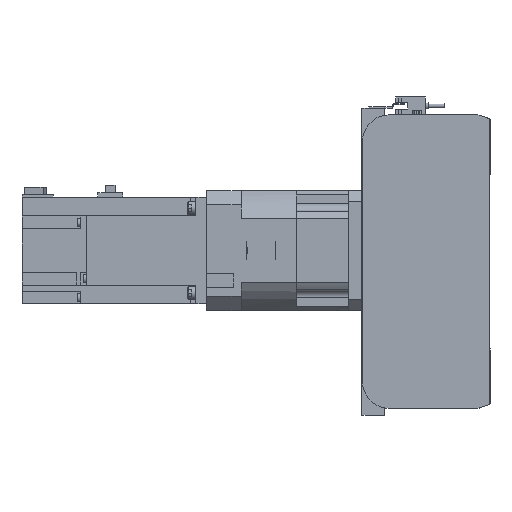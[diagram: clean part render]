
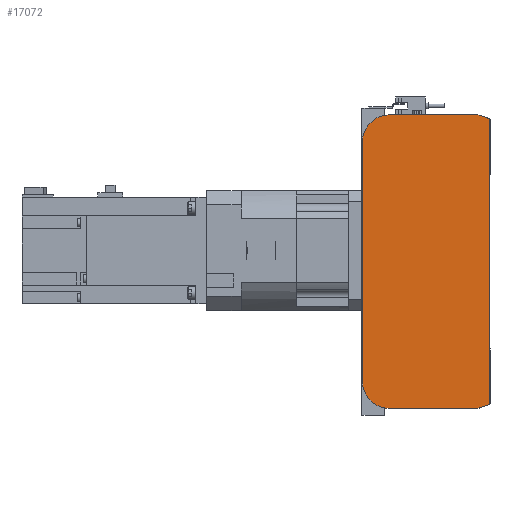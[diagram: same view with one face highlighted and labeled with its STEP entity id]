
A CAD part, left-side view. The second image highlights one B-rep face of the part: STEP entity #17072.
In plain terms, the highlighted planar face has unit normal (-1, 0, 0).
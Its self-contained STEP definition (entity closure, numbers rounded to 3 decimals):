
#962=CIRCLE('',#18624,20.);
#963=CIRCLE('',#18627,20.);
#4358=ORIENTED_EDGE('',*,*,#7432,.F.);
#4359=ORIENTED_EDGE('',*,*,#7474,.F.);
#4360=ORIENTED_EDGE('',*,*,#7472,.F.);
#4361=ORIENTED_EDGE('',*,*,#7470,.F.);
#4362=ORIENTED_EDGE('',*,*,#7459,.F.);
#4363=ORIENTED_EDGE('',*,*,#7450,.F.);
#4364=ORIENTED_EDGE('',*,*,#7446,.F.);
#4365=ORIENTED_EDGE('',*,*,#7443,.F.);
#7432=EDGE_CURVE('',#9313,#9314,#10843,.T.);
#7443=EDGE_CURVE('',#9314,#9321,#10854,.T.);
#7446=EDGE_CURVE('',#9321,#9323,#10857,.T.);
#7450=EDGE_CURVE('',#9323,#9324,#10861,.T.);
#7459=EDGE_CURVE('',#9324,#9330,#10870,.T.);
#7470=EDGE_CURVE('',#9330,#9337,#962,.T.);
#7472=EDGE_CURVE('',#9337,#9338,#10882,.T.);
#7474=EDGE_CURVE('',#9338,#9313,#963,.T.);
#9313=VERTEX_POINT('',#28018);
#9314=VERTEX_POINT('',#28020);
#9321=VERTEX_POINT('',#28039);
#9323=VERTEX_POINT('',#28045);
#9324=VERTEX_POINT('',#28051);
#9330=VERTEX_POINT('',#28067);
#9337=VERTEX_POINT('',#28086);
#9338=VERTEX_POINT('',#28090);
#10843=LINE('',#28019,#12404);
#10854=LINE('',#28038,#12415);
#10857=LINE('',#28044,#12418);
#10861=LINE('',#28050,#12422);
#10870=LINE('',#28066,#12431);
#10882=LINE('',#28089,#12443);
#12404=VECTOR('',#22631,1000.);
#12415=VECTOR('',#22644,1000.);
#12418=VECTOR('',#22649,1000.);
#12422=VECTOR('',#22655,1000.);
#12431=VECTOR('',#22666,1000.);
#12443=VECTOR('',#22684,1000.);
#13828=EDGE_LOOP('',(#4358,#4359,#4360,#4361,#4362,#4363,#4364,#4365));
#15302=FACE_BOUND('',#13828,.T.);
#16215=PLANE('',#18628);
#17072=ADVANCED_FACE('',(#15302),#16215,.F.);
#18624=AXIS2_PLACEMENT_3D('',#28085,#22679,#22680);
#18627=AXIS2_PLACEMENT_3D('',#28093,#22688,#22689);
#18628=AXIS2_PLACEMENT_3D('',#28094,#22690,#22691);
#22631=DIRECTION('',(0.,-1.,0.));
#22644=DIRECTION('',(0.,-0.945,-0.328));
#22649=DIRECTION('',(0.,0.,-1.));
#22655=DIRECTION('',(0.,0.945,-0.328));
#22666=DIRECTION('',(0.,1.,0.));
#22679=DIRECTION('',(1.,0.,0.));
#22680=DIRECTION('',(0.,0.,-1.));
#22684=DIRECTION('',(0.,0.,1.));
#22688=DIRECTION('',(1.,0.,0.));
#22689=DIRECTION('',(0.,0.,-1.));
#22690=DIRECTION('',(1.,0.,0.));
#22691=DIRECTION('',(0.,0.,-1.));
#28018=CARTESIAN_POINT('',(0.,75.5,110.));
#28019=CARTESIAN_POINT('',(0.,75.5,110.));
#28020=CARTESIAN_POINT('',(0.,9.,110.));
#28038=CARTESIAN_POINT('',(0.,9.,110.));
#28039=CARTESIAN_POINT('',(0.,0.5,107.05));
#28044=CARTESIAN_POINT('',(0.,0.5,107.05));
#28045=CARTESIAN_POINT('',(0.,0.5,-107.05));
#28050=CARTESIAN_POINT('',(0.,0.5,-107.05));
#28051=CARTESIAN_POINT('',(0.,9.,-110.));
#28066=CARTESIAN_POINT('',(0.,9.,-110.));
#28067=CARTESIAN_POINT('',(0.,75.5,-110.));
#28085=CARTESIAN_POINT('',(0.,75.5,-90.));
#28086=CARTESIAN_POINT('',(0.,95.5,-90.));
#28089=CARTESIAN_POINT('',(0.,95.5,-90.));
#28090=CARTESIAN_POINT('',(0.,95.5,90.));
#28093=CARTESIAN_POINT('',(0.,75.5,90.));
#28094=CARTESIAN_POINT('',(0.,75.5,-90.));
